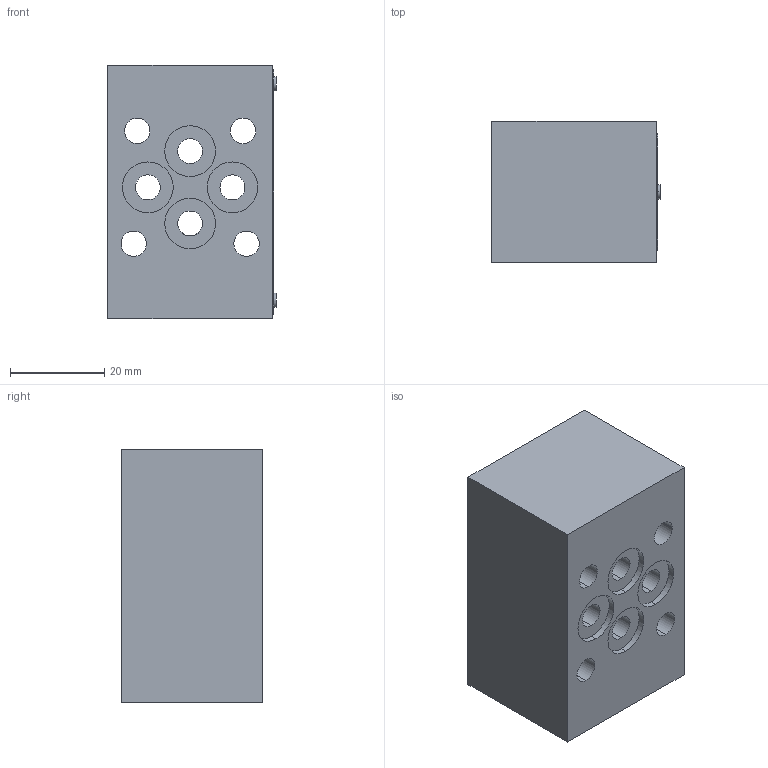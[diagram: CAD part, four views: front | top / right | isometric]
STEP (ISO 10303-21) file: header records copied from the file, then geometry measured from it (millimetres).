
FILE_DESCRIPTION((''),'2;1');
FILE_NAME('VJO1_04','2011-03-14T',('tvatras'),(''),'PRO/ENGINEER BY PARAMETRIC TECHNOLOGY CORPORATION, 2010180','PRO/ENGINEER BY PARAMETRIC TECHNOLOGY CORPORATION, 2010180','');
FILE_SCHEMA(('CONFIG_CONTROL_DESIGN'));
Length unit declared in the file: millimetre
Products named in the file (1): VJO1_04
Bounding box: 35.8 x 30 x 54 mm (x, y, z)
Volume: 49315.4 mm3; surface area: 14053.9 mm2
Topology: 1 solids, 2 shells, 217 faces, 576 edges, 386 vertices
Faces by surface type: plane 101, extrusion 74, cylinder 38, cone 4
Entity records: 7090 total; most frequent: CARTESIAN_POINT 1825, ORIENTED_EDGE 1144, DIRECTION 866, EDGE_CURVE 574, VECTOR 418, VERTEX_POINT 382, LINE 344, EDGE_LOOP 258
